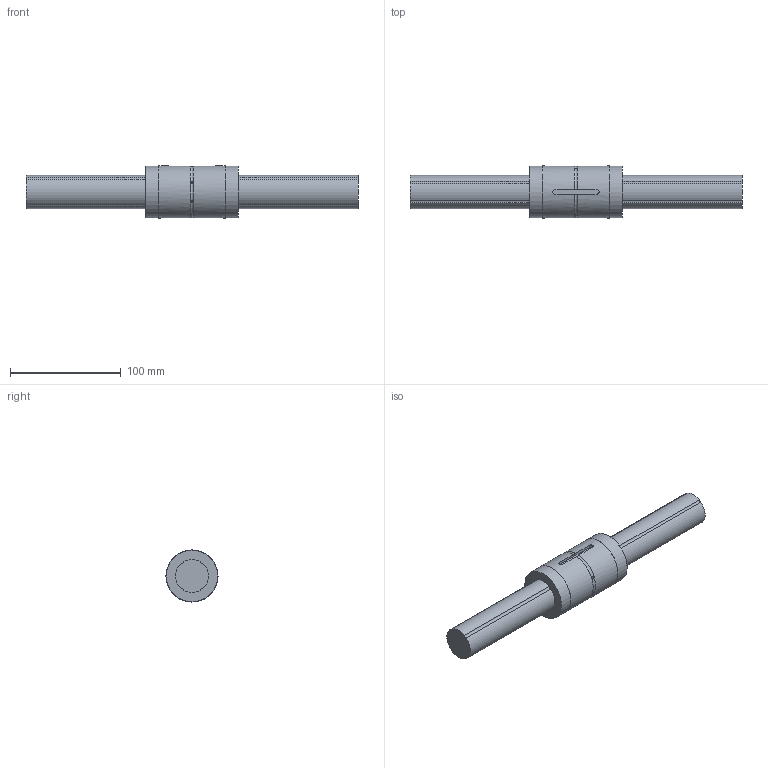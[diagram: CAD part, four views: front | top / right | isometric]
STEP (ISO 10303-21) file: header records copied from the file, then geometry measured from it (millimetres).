
FILE_DESCRIPTION((''),'2;1');
FILE_NAME('C:\Documents and Settings\土屋\My Documents\土屋移動用フォルダ\製品 (図面)\カタログ用3D\ボールスプライン\BSP\BSP30.stp','2015-02-23T13:28:38',('y'),(''),'Autodesk Inventor 11','Autodesk Inventor 11','');
FILE_SCHEMA(('AUTOMOTIVE_DESIGN { 1 0 10303 214 1 1 1 1 }'));
Length unit declared in the file: millimetre
Products named in the file (3): BSP30; BSP30軸; BSP30ナット
Assembly tree (2 placements, depth 2):
  BSP30
    BSP30軸
    BSP30ナット
Bounding box: 300 x 47 x 47 mm (x, y, z)
Volume: 296249.7 mm3; surface area: 53010.9 mm2
Topology: 2 solids, 2 shells, 40 faces, 94 edges, 64 vertices
Faces by surface type: cylinder 24, plane 11, bspline 5
Full cylindrical faces by diameter (mm): 2 x2, 46.8 x2, 47 x2
Entity records: 1526 total; most frequent: CARTESIAN_POINT 571, DIRECTION 198, ORIENTED_EDGE 164, AXIS2_PLACEMENT_3D 86, EDGE_CURVE 82, VERTEX_POINT 60, EDGE_LOOP 56, CIRCLE 46
